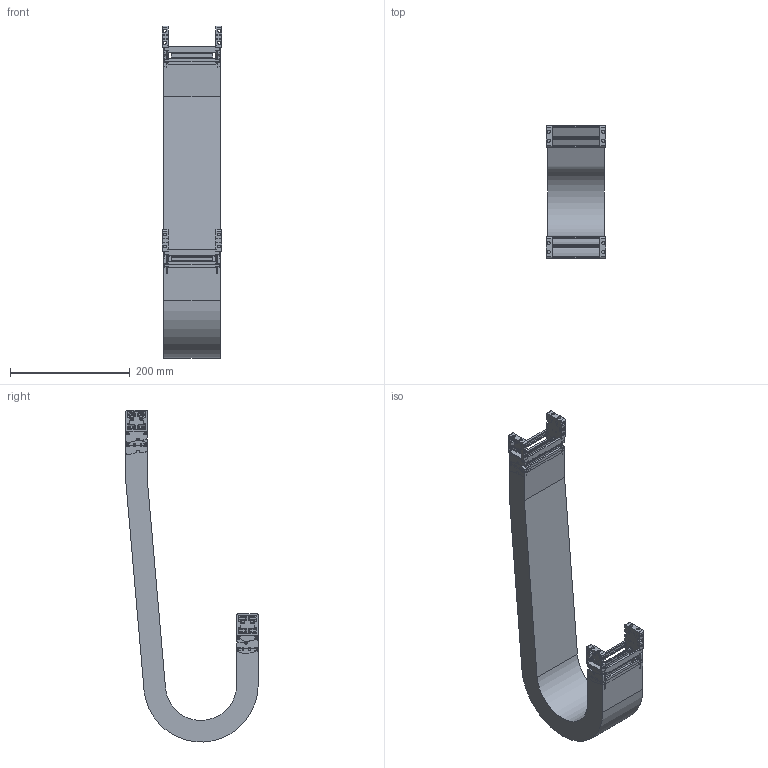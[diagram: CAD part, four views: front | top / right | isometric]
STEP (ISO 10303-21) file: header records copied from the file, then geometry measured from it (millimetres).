
FILE_DESCRIPTION((''),'2;1');
FILE_NAME('KST-25080-075_ASM','2017-12-05T',('KUNI004K'),(''),'PRO/ENGINEER BY PARAMETRIC TECHNOLOGY CORPORATION, 2015200','PRO/ENGINEER BY PARAMETRIC TECHNOLOGY CORPORATION, 2015200','');
FILE_SCHEMA(('AUTOMOTIVE_DESIGN { 1 0 10303 214 1 1 1 1 }'));
Length unit declared in the file: millimetre
Products named in the file (13): 25FBR; 25FBL; 25080C; KST25FBR_W080_ASM; 25075R; 25075L; 25080H; KST25080-075_1_ASM; KST25080_R75_BODY; 25MBR; 25MBL; KST25MBR_W080_ASM; KST-25080-075_ASM
Assembly tree (19 placements, depth 3):
  KST-25080-075_ASM
    KST25FBR_W080_ASM
      25FBR
      25FBL
      25080C  x2
    KST25080-075_1_ASM  x2
      25075R
      25075L
      25080C
      25080H
    KST25080_R75_BODY
    KST25MBR_W080_ASM
      25MBR
      25MBL
      25080C  x2
Bounding box: 100 x 221 x 554.21 mm (x, y, z)
Volume: 1074161.3 mm3; surface area: 525398.8 mm2
Topology: 21 solids, 21 shells, 2660 faces, 7418 edges, 4816 vertices
Faces by surface type: plane 1394, cylinder 962, bspline 208, sphere 64, torus 32
Entity records: 69855 total; most frequent: CARTESIAN_POINT 14458, ORIENTED_EDGE 7540, DIRECTION 6636, PRESENTATION_STYLE_ASSIGNMENT 5094, STYLED_ITEM 5094, CURVE_STYLE 3770, EDGE_CURVE 3770, VECTOR 2510
